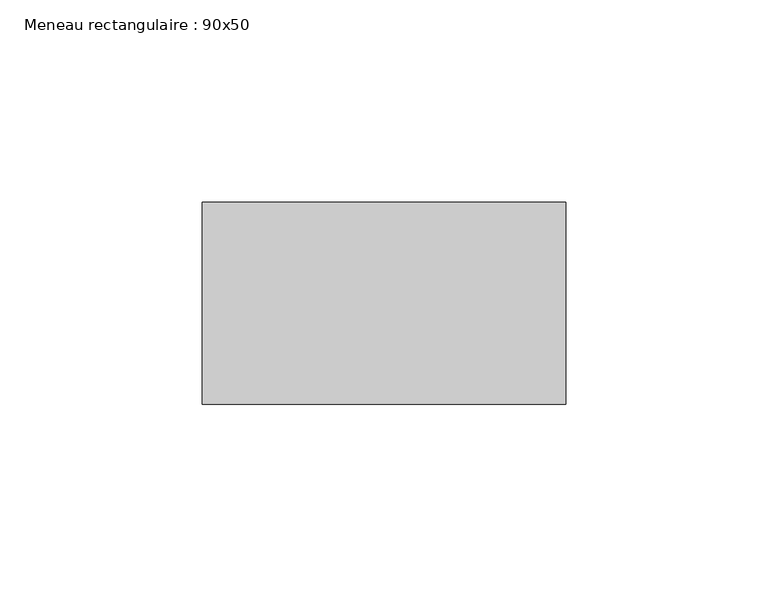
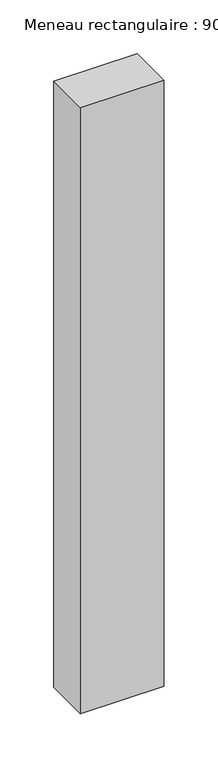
"""IFC4 building model written with IfcOpenShell, lengths in millimetres: member geometry, Meneau rectangulaire : 90x50."""

from ifc_helpers import new_model, si_unit, frame, origin, place, context, project, spatial, polyline, outline, extrude, source, transform, mapped, element, save


def meneau_rectangulaire_90x50_56e2ac21(model_context):
    return source(origin(), model_context, "Body", "SweptSolid", [
        extrude(outline(polyline([(0.0, 0.0), (0.0, -50.0), (-90.0, -50.0), (-90.0, 0.0), (0.0, 0.0)])), frame((0.0, 0.0, -690.5709235), z_axis=(0.0, 0.0, 1.0), x_axis=(1.0, 0.0, 0.0)), (0.0, 0.0, 1.0), 690.5709235),
    ])


if __name__ == "__main__":
    model = new_model("IFC4")
    model_context = context("Model", 3, world=origin())
    ifc_project = project(units=[si_unit("LENGTHUNIT", "METRE", prefix="MILLI")], contexts=[model_context])
    site = spatial("IfcSite", under=ifc_project)
    building = spatial("IfcBuilding", under=site)
    placement = place(None, origin())
    meneau_rectangulaire_90x50_shape = meneau_rectangulaire_90x50_56e2ac21(model_context)
    element("IfcMember", 1, ObjectType="Meneau rectangulaire : 90x50", at=placement, inside=building, context=model_context, shape_type="MappedRepresentation", body=[
        mapped(meneau_rectangulaire_90x50_shape, transform((0.0, 0.0, 0.0), x_axis=(1.0, 0.0, 0.0), y_axis=(0.0, 1.0, 0.0), z_axis=(0.0, 0.0, 1.0))),
    ])
    save(model, "model.ifc")
